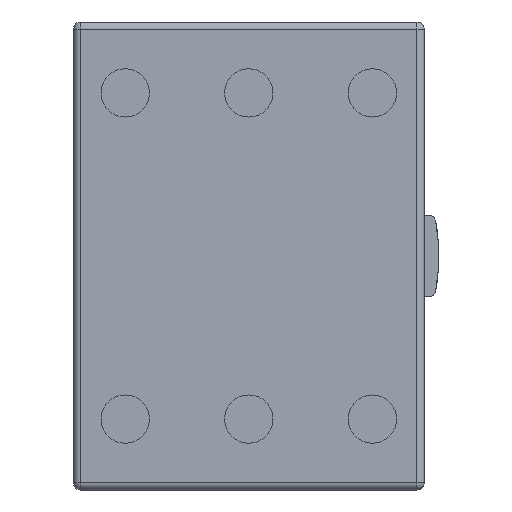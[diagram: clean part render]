
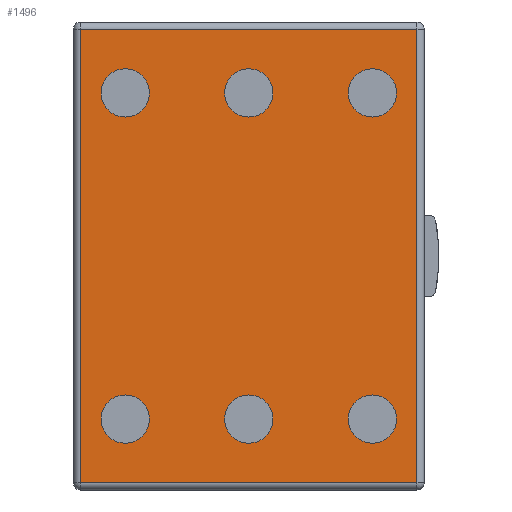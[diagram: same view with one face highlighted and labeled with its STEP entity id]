
A CAD part, front view. The second image highlights one B-rep face of the part: STEP entity #1496.
In plain terms, the highlighted planar face has unit normal (0, -1, 0).
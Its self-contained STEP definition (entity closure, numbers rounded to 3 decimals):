
#3 = DIRECTION ( 'NONE',  ( 0., -1., 0. ) ) ;
#359 = DIRECTION ( 'NONE',  ( 0., 0., 1. ) ) ;
#856 = CARTESIAN_POINT ( 'NONE',  ( -23., 0., 32. ) ) ;
#870 = AXIS2_PLACEMENT_3D ( 'NONE', #6919, #6058, #6352 ) ;
#871 = AXIS2_PLACEMENT_3D ( 'NONE', #6768, #6053, #6073 ) ;
#872 = AXIS2_PLACEMENT_3D ( 'NONE', #6035, #6740, #6525 ) ;
#901 = AXIS2_PLACEMENT_3D ( 'NONE', #1855, #3, #1863 ) ;
#915 = EDGE_CURVE ( 'NONE', #8600, #8573, #5652, .T. ) ;
#942 = EDGE_CURVE ( 'NONE', #9180, #8678, #5626, .T. ) ;
#943 = EDGE_CURVE ( 'NONE', #8707, #8730, #5647, .T. ) ;
#946 = EDGE_CURVE ( 'NONE', #8678, #9180, #5645, .T. ) ;
#947 = EDGE_CURVE ( 'NONE', #8573, #9048, #5638, .T. ) ;
#1026 = EDGE_CURVE ( 'NONE', #9244, #8510, #4563, .T. ) ;
#1061 = EDGE_CURVE ( 'NONE', #8640, #8593, #4688, .T. ) ;
#1095 = EDGE_CURVE ( 'NONE', #8730, #8707, #4618, .T. ) ;
#1099 = AXIS2_PLACEMENT_3D ( 'NONE', #6247, #6119, #6228 ) ;
#1109 = DIRECTION ( 'NONE',  ( 0., 0., -1. ) ) ;
#1116 = AXIS2_PLACEMENT_3D ( 'NONE', #3359, #3401, #3411 ) ;
#1120 = AXIS2_PLACEMENT_3D ( 'NONE', #3303, #3296, #3327 ) ;
#1132 = AXIS2_PLACEMENT_3D ( 'NONE', #1869, #1872, #1871 ) ;
#1157 = AXIS2_PLACEMENT_3D ( 'NONE', #3282, #3342, #3347 ) ;
#1165 = EDGE_CURVE ( 'NONE', #8492, #8585, #4648, .T. ) ;
#1172 = AXIS2_PLACEMENT_3D ( 'NONE', #1477, #1449, #1454 ) ;
#1175 = AXIS2_PLACEMENT_3D ( 'NONE', #5657, #5658, #359 ) ;
#1196 = EDGE_CURVE ( 'NONE', #8626, #8600, #4702, .T. ) ;
#1273 = EDGE_CURVE ( 'NONE', #8611, #8519, #4881, .T. ) ;
#1275 = EDGE_CURVE ( 'NONE', #8593, #8640, #4956, .T. ) ;
#1282 = EDGE_CURVE ( 'NONE', #8585, #8492, #4873, .T. ) ;
#1286 = EDGE_CURVE ( 'NONE', #9048, #8626, #4896, .T. ) ;
#1287 = EDGE_CURVE ( 'NONE', #8510, #9244, #4898, .T. ) ;
#1337 = AXIS2_PLACEMENT_3D ( 'NONE', #3977, #3653, #4146 ) ;
#1438 = DIRECTION ( 'NONE',  ( -1., 0., 0. ) ) ;
#1449 = DIRECTION ( 'NONE',  ( 0., -1., 0. ) ) ;
#1454 = DIRECTION ( 'NONE',  ( 0., 0., -1. ) ) ;
#1465 = CARTESIAN_POINT ( 'NONE',  ( 24., 0., 31. ) ) ;
#1477 = CARTESIAN_POINT ( 'NONE',  ( 0., 0., 22.3 ) ) ;
#1496 = ADVANCED_FACE ( 'NONE', ( #4745, #4751, #4824, #4752, #4750, #4823, #4753 ), #3649, .F. ) ;
#1718 = AXIS2_PLACEMENT_3D ( 'NONE', #6754, #6753, #6751 ) ;
#1855 = CARTESIAN_POINT ( 'NONE',  ( -16.9, 0., 22.3 ) ) ;
#1863 = DIRECTION ( 'NONE',  ( 0., 0., -1. ) ) ;
#1869 = CARTESIAN_POINT ( 'NONE',  ( -16.9, 0., -22.3 ) ) ;
#1871 = DIRECTION ( 'NONE',  ( 0., 0., 1. ) ) ;
#1872 = DIRECTION ( 'NONE',  ( 0., 1., 0. ) ) ;
#2196 = CARTESIAN_POINT ( 'NONE',  ( -23., 0., 31. ) ) ;
#2210 = CARTESIAN_POINT ( 'NONE',  ( -16.9, 0., 19. ) ) ;
#2544 = CARTESIAN_POINT ( 'NONE',  ( -16.9, 0., -19. ) ) ;
#2548 = CARTESIAN_POINT ( 'NONE',  ( 0., 0., 25.6 ) ) ;
#2557 = CARTESIAN_POINT ( 'NONE',  ( 23., 0., -31. ) ) ;
#2725 = CARTESIAN_POINT ( 'NONE',  ( -16.9, 0., 25.6 ) ) ;
#2746 = CARTESIAN_POINT ( 'NONE',  ( 16.9, 0., 25.6 ) ) ;
#2838 = CARTESIAN_POINT ( 'NONE',  ( 0., 0., -19. ) ) ;
#2862 = CARTESIAN_POINT ( 'NONE',  ( 0., 0., 19. ) ) ;
#2870 = CARTESIAN_POINT ( 'NONE',  ( 16.9, 0., 19. ) ) ;
#2890 = CARTESIAN_POINT ( 'NONE',  ( 0., 0., -25.6 ) ) ;
#2993 = CARTESIAN_POINT ( 'NONE',  ( 16.9, 0., -25.6 ) ) ;
#3056 = CARTESIAN_POINT ( 'NONE',  ( 16.9, 0., -19. ) ) ;
#3111 = CARTESIAN_POINT ( 'NONE',  ( -16.9, 0., -25.6 ) ) ;
#3176 = CARTESIAN_POINT ( 'NONE',  ( 23., 0., 31. ) ) ;
#3212 = CARTESIAN_POINT ( 'NONE',  ( -23., 0., -31. ) ) ;
#3282 = CARTESIAN_POINT ( 'NONE',  ( 0., 0., -22.3 ) ) ;
#3296 = DIRECTION ( 'NONE',  ( 0., -1., 0. ) ) ;
#3303 = CARTESIAN_POINT ( 'NONE',  ( 0., 0., 22.3 ) ) ;
#3327 = DIRECTION ( 'NONE',  ( 0., 0., -1. ) ) ;
#3342 = DIRECTION ( 'NONE',  ( 0., 1., 0. ) ) ;
#3347 = DIRECTION ( 'NONE',  ( 0., 0., 1. ) ) ;
#3359 = CARTESIAN_POINT ( 'NONE',  ( -16.9, 0., -22.3 ) ) ;
#3401 = DIRECTION ( 'NONE',  ( 0., 1., 0. ) ) ;
#3411 = DIRECTION ( 'NONE',  ( 0., 0., 1. ) ) ;
#3649 = PLANE ( 'NONE',  #1337 ) ;
#3653 = DIRECTION ( 'NONE',  ( 0., 1., 0. ) ) ;
#3977 = CARTESIAN_POINT ( 'NONE',  ( 24., 0., 32. ) ) ;
#4146 = DIRECTION ( 'NONE',  ( 0., 0., 1. ) ) ;
#4563 = CIRCLE ( 'NONE', #1099, 3.3 ) ;
#4618 = CIRCLE ( 'NONE', #1157, 3.3 ) ;
#4648 = CIRCLE ( 'NONE', #1120, 3.3 ) ;
#4688 = CIRCLE ( 'NONE', #1116, 3.3 ) ;
#4702 = LINE ( 'NONE', #856, #4704 ) ;
#4704 = VECTOR ( 'NONE', #1109, 1000. ) ;
#4745 = FACE_OUTER_BOUND ( 'NONE', #5382, .T. ) ;
#4750 = FACE_BOUND ( 'NONE', #5211, .T. ) ;
#4751 = FACE_BOUND ( 'NONE', #5130, .T. ) ;
#4752 = FACE_BOUND ( 'NONE', #5228, .T. ) ;
#4753 = FACE_BOUND ( 'NONE', #5413, .T. ) ;
#4823 = FACE_BOUND ( 'NONE', #5260, .T. ) ;
#4824 = FACE_BOUND ( 'NONE', #5329, .T. ) ;
#4873 = CIRCLE ( 'NONE', #1172, 3.3 ) ;
#4881 = CIRCLE ( 'NONE', #901, 3.3 ) ;
#4896 = LINE ( 'NONE', #1465, #4899 ) ;
#4898 = CIRCLE ( 'NONE', #1175, 3.3 ) ;
#4899 = VECTOR ( 'NONE', #1438, 1000. ) ;
#4956 = CIRCLE ( 'NONE', #1132, 3.3 ) ;
#5130 = EDGE_LOOP ( 'NONE', ( #8945, #8889 ) ) ;
#5211 = EDGE_LOOP ( 'NONE', ( #8911, #8960 ) ) ;
#5228 = EDGE_LOOP ( 'NONE', ( #8947, #8935 ) ) ;
#5260 = EDGE_LOOP ( 'NONE', ( #8959, #8903 ) ) ;
#5329 = EDGE_LOOP ( 'NONE', ( #8950, #8951 ) ) ;
#5382 = EDGE_LOOP ( 'NONE', ( #8948, #8944, #8887, #8886 ) ) ;
#5413 = EDGE_LOOP ( 'NONE', ( #8934, #8933 ) ) ;
#5626 = CIRCLE ( 'NONE', #872, 3.3 ) ;
#5638 = LINE ( 'NONE', #6265, #5640 ) ;
#5640 = VECTOR ( 'NONE', #6260, 1000. ) ;
#5645 = CIRCLE ( 'NONE', #870, 3.3 ) ;
#5647 = CIRCLE ( 'NONE', #871, 3.3 ) ;
#5652 = LINE ( 'NONE', #6844, #5653 ) ;
#5653 = VECTOR ( 'NONE', #6064, 1000. ) ;
#5657 = CARTESIAN_POINT ( 'NONE',  ( 16.9, 0., -22.3 ) ) ;
#5658 = DIRECTION ( 'NONE',  ( 0., 1., 0. ) ) ;
#6035 = CARTESIAN_POINT ( 'NONE',  ( 16.9, 0., 22.3 ) ) ;
#6053 = DIRECTION ( 'NONE',  ( 0., 1., 0. ) ) ;
#6058 = DIRECTION ( 'NONE',  ( 0., -1., 0. ) ) ;
#6064 = DIRECTION ( 'NONE',  ( 1., 0., 0. ) ) ;
#6073 = DIRECTION ( 'NONE',  ( 0., 0., 1. ) ) ;
#6119 = DIRECTION ( 'NONE',  ( 0., 1., 0. ) ) ;
#6228 = DIRECTION ( 'NONE',  ( 0., 0., 1. ) ) ;
#6247 = CARTESIAN_POINT ( 'NONE',  ( 16.9, 0., -22.3 ) ) ;
#6260 = DIRECTION ( 'NONE',  ( 0., 0., 1. ) ) ;
#6265 = CARTESIAN_POINT ( 'NONE',  ( 23., 0., 32. ) ) ;
#6352 = DIRECTION ( 'NONE',  ( 0., 0., -1. ) ) ;
#6525 = DIRECTION ( 'NONE',  ( 0., 0., -1. ) ) ;
#6740 = DIRECTION ( 'NONE',  ( 0., -1., 0. ) ) ;
#6751 = DIRECTION ( 'NONE',  ( 0., 0., -1. ) ) ;
#6753 = DIRECTION ( 'NONE',  ( 0., -1., 0. ) ) ;
#6754 = CARTESIAN_POINT ( 'NONE',  ( -16.9, 0., 22.3 ) ) ;
#6768 = CARTESIAN_POINT ( 'NONE',  ( 0., 0., -22.3 ) ) ;
#6844 = CARTESIAN_POINT ( 'NONE',  ( 24., 0., -31. ) ) ;
#6919 = CARTESIAN_POINT ( 'NONE',  ( 16.9, 0., 22.3 ) ) ;
#8038 = CIRCLE ( 'NONE', #1718, 3.3 ) ;
#8492 = VERTEX_POINT ( 'NONE', #2862 ) ;
#8510 = VERTEX_POINT ( 'NONE', #2993 ) ;
#8519 = VERTEX_POINT ( 'NONE', #2725 ) ;
#8573 = VERTEX_POINT ( 'NONE', #2557 ) ;
#8585 = VERTEX_POINT ( 'NONE', #2548 ) ;
#8593 = VERTEX_POINT ( 'NONE', #2544 ) ;
#8600 = VERTEX_POINT ( 'NONE', #3212 ) ;
#8611 = VERTEX_POINT ( 'NONE', #2210 ) ;
#8626 = VERTEX_POINT ( 'NONE', #2196 ) ;
#8640 = VERTEX_POINT ( 'NONE', #3111 ) ;
#8678 = VERTEX_POINT ( 'NONE', #2870 ) ;
#8707 = VERTEX_POINT ( 'NONE', #2890 ) ;
#8730 = VERTEX_POINT ( 'NONE', #2838 ) ;
#8886 = ORIENTED_EDGE ( 'NONE', *, *, #1286, .T. ) ;
#8887 = ORIENTED_EDGE ( 'NONE', *, *, #947, .T. ) ;
#8889 = ORIENTED_EDGE ( 'NONE', *, *, #1095, .T. ) ;
#8903 = ORIENTED_EDGE ( 'NONE', *, *, #1275, .T. ) ;
#8911 = ORIENTED_EDGE ( 'NONE', *, *, #946, .F. ) ;
#8933 = ORIENTED_EDGE ( 'NONE', *, *, #1026, .T. ) ;
#8934 = ORIENTED_EDGE ( 'NONE', *, *, #1287, .T. ) ;
#8935 = ORIENTED_EDGE ( 'NONE', *, *, #1282, .F. ) ;
#8944 = ORIENTED_EDGE ( 'NONE', *, *, #915, .T. ) ;
#8945 = ORIENTED_EDGE ( 'NONE', *, *, #943, .T. ) ;
#8947 = ORIENTED_EDGE ( 'NONE', *, *, #1165, .F. ) ;
#8948 = ORIENTED_EDGE ( 'NONE', *, *, #1196, .T. ) ;
#8950 = ORIENTED_EDGE ( 'NONE', *, *, #1273, .F. ) ;
#8951 = ORIENTED_EDGE ( 'NONE', *, *, #9733, .F. ) ;
#8959 = ORIENTED_EDGE ( 'NONE', *, *, #1061, .T. ) ;
#8960 = ORIENTED_EDGE ( 'NONE', *, *, #942, .F. ) ;
#9048 = VERTEX_POINT ( 'NONE', #3176 ) ;
#9180 = VERTEX_POINT ( 'NONE', #2746 ) ;
#9244 = VERTEX_POINT ( 'NONE', #3056 ) ;
#9733 = EDGE_CURVE ( 'NONE', #8519, #8611, #8038, .T. ) ;
